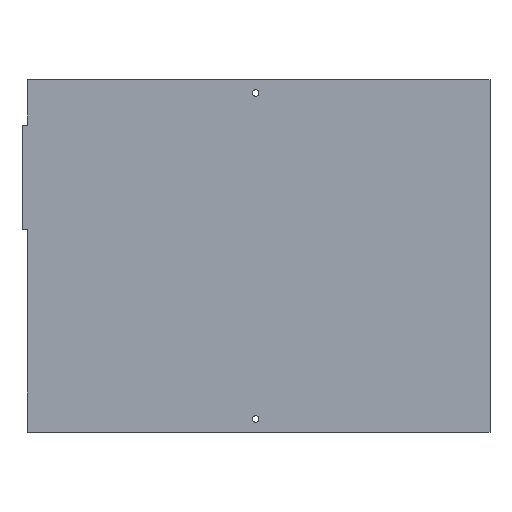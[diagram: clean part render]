
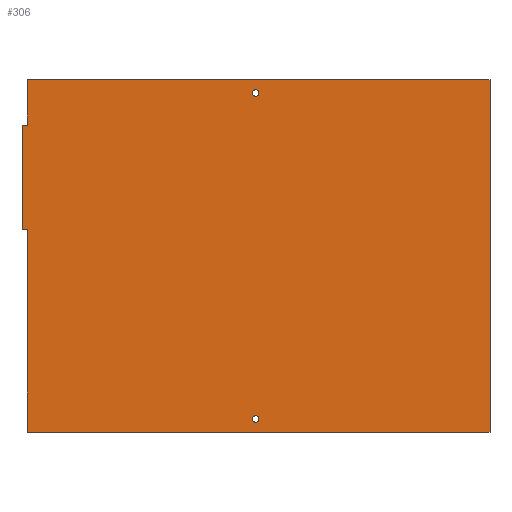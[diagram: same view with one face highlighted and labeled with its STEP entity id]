
A CAD part, top view. The second image highlights one B-rep face of the part: STEP entity #306.
In plain terms, the highlighted planar face has unit normal (0, 0, 1).
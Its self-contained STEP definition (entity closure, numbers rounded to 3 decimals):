
#6 = VECTOR ( 'NONE', #27, 1000. ) ;
#17 = DIRECTION ( 'NONE',  ( 0., 0., -1. ) ) ;
#20 = VERTEX_POINT ( 'NONE', #85 ) ;
#22 = VERTEX_POINT ( 'NONE', #252 ) ;
#27 = DIRECTION ( 'NONE',  ( -1., 0., 0. ) ) ;
#31 = DIRECTION ( 'NONE',  ( 1., 0., 0. ) ) ;
#34 = CARTESIAN_POINT ( 'NONE',  ( 1282.2, 935., 12. ) ) ;
#40 = VECTOR ( 'NONE', #313, 1000. ) ;
#52 = CARTESIAN_POINT ( 'NONE',  ( 1194.7, 1004.8, 12. ) ) ;
#55 = CARTESIAN_POINT ( 'NONE',  ( 1196.96, 1043.2, 12. ) ) ;
#60 = DIRECTION ( 'NONE',  ( 1., 0., 0. ) ) ;
#61 = CARTESIAN_POINT ( 'NONE',  ( 1367.26, 929.86, 12. ) ) ;
#64 = DIRECTION ( 'NONE',  ( 0., 0., 1. ) ) ;
#65 = DIRECTION ( 'NONE',  ( 0., 0., -1. ) ) ;
#66 = CARTESIAN_POINT ( 'NONE',  ( 1281., 935., 12. ) ) ;
#73 = AXIS2_PLACEMENT_3D ( 'NONE', #138, #384, #355 ) ;
#77 = ORIENTED_EDGE ( 'NONE', *, *, #294, .T. ) ;
#82 = CIRCLE ( 'NONE', #282, 1.2 ) ;
#85 = CARTESIAN_POINT ( 'NONE',  ( 1196.96, 1004.8, 12. ) ) ;
#88 = CARTESIAN_POINT ( 'NONE',  ( 1281., 935., 12. ) ) ;
#90 = EDGE_CURVE ( 'NONE', #20, #166, #228, .T. ) ;
#93 = VECTOR ( 'NONE', #141, 1000. ) ;
#101 = VECTOR ( 'NONE', #343, 1000. ) ;
#104 = ORIENTED_EDGE ( 'NONE', *, *, #350, .T. ) ;
#116 = ORIENTED_EDGE ( 'NONE', *, *, #208, .T. ) ;
#121 = DIRECTION ( 'NONE',  ( 0., -1., 0. ) ) ;
#130 = EDGE_CURVE ( 'NONE', #456, #424, #370, .T. ) ;
#132 = CARTESIAN_POINT ( 'NONE',  ( 1196.96, 930.16, 12. ) ) ;
#134 = LINE ( 'NONE', #427, #513 ) ;
#138 = CARTESIAN_POINT ( 'NONE',  ( 1281., 1055., 12. ) ) ;
#141 = DIRECTION ( 'NONE',  ( 1., 0., 0. ) ) ;
#148 = EDGE_LOOP ( 'NONE', ( #334, #218 ) ) ;
#151 = EDGE_CURVE ( 'NONE', #197, #260, #430, .T. ) ;
#154 = VERTEX_POINT ( 'NONE', #55 ) ;
#155 = ORIENTED_EDGE ( 'NONE', *, *, #511, .T. ) ;
#160 = EDGE_LOOP ( 'NONE', ( #104, #116, #407, #77, #342, #290, #398, #155 ) ) ;
#161 = CARTESIAN_POINT ( 'NONE',  ( 1279.8, 935., 12. ) ) ;
#164 = AXIS2_PLACEMENT_3D ( 'NONE', #457, #64, #31 ) ;
#166 = VERTEX_POINT ( 'NONE', #132 ) ;
#170 = LINE ( 'NONE', #308, #6 ) ;
#180 = CARTESIAN_POINT ( 'NONE',  ( 1279.8, 1055., 12. ) ) ;
#183 = CARTESIAN_POINT ( 'NONE',  ( 1196.96, 1059.84, 12. ) ) ;
#197 = VERTEX_POINT ( 'NONE', #348 ) ;
#201 = VERTEX_POINT ( 'NONE', #217 ) ;
#208 = EDGE_CURVE ( 'NONE', #22, #383, #406, .T. ) ;
#217 = CARTESIAN_POINT ( 'NONE',  ( 1282.2, 1055., 12. ) ) ;
#218 = ORIENTED_EDGE ( 'NONE', *, *, #130, .T. ) ;
#221 = PLANE ( 'NONE',  #164 ) ;
#228 = LINE ( 'NONE', #245, #514 ) ;
#229 = DIRECTION ( 'NONE',  ( 1., 0., 0. ) ) ;
#237 = DIRECTION ( 'NONE',  ( 0., 0., -1. ) ) ;
#245 = CARTESIAN_POINT ( 'NONE',  ( 1196.96, 1004.5, 12. ) ) ;
#252 = CARTESIAN_POINT ( 'NONE',  ( 1367.26, 1059.84, 12. ) ) ;
#256 = CARTESIAN_POINT ( 'NONE',  ( 1195., 1004.8, 12. ) ) ;
#259 = FACE_BOUND ( 'NONE', #279, .T. ) ;
#260 = VERTEX_POINT ( 'NONE', #256 ) ;
#263 = AXIS2_PLACEMENT_3D ( 'NONE', #360, #237, #477 ) ;
#269 = EDGE_CURVE ( 'NONE', #260, #20, #429, .T. ) ;
#277 = ORIENTED_EDGE ( 'NONE', *, *, #298, .T. ) ;
#279 = EDGE_LOOP ( 'NONE', ( #277, #483 ) ) ;
#282 = AXIS2_PLACEMENT_3D ( 'NONE', #66, #65, #462 ) ;
#290 = ORIENTED_EDGE ( 'NONE', *, *, #269, .T. ) ;
#294 = EDGE_CURVE ( 'NONE', #154, #197, #170, .T. ) ;
#298 = EDGE_CURVE ( 'NONE', #201, #320, #389, .T. ) ;
#306 = ADVANCED_FACE ( 'NONE', ( #356, #259, #325 ), #221, .T. ) ;
#308 = CARTESIAN_POINT ( 'NONE',  ( 1196.66, 1043.2, 12. ) ) ;
#309 = VECTOR ( 'NONE', #461, 1000. ) ;
#312 = VERTEX_POINT ( 'NONE', #504 ) ;
#313 = DIRECTION ( 'NONE',  ( 0., 1., 0. ) ) ;
#318 = CIRCLE ( 'NONE', #263, 1.2 ) ;
#320 = VERTEX_POINT ( 'NONE', #180 ) ;
#325 = FACE_OUTER_BOUND ( 'NONE', #160, .T. ) ;
#330 = EDGE_CURVE ( 'NONE', #383, #154, #413, .T. ) ;
#334 = ORIENTED_EDGE ( 'NONE', *, *, #361, .T. ) ;
#342 = ORIENTED_EDGE ( 'NONE', *, *, #151, .T. ) ;
#343 = DIRECTION ( 'NONE',  ( -1., 0., 0. ) ) ;
#348 = CARTESIAN_POINT ( 'NONE',  ( 1195., 1043.2, 12. ) ) ;
#350 = EDGE_CURVE ( 'NONE', #312, #22, #394, .T. ) ;
#355 = DIRECTION ( 'NONE',  ( 1., 0., 0. ) ) ;
#356 = FACE_BOUND ( 'NONE', #148, .T. ) ;
#360 = CARTESIAN_POINT ( 'NONE',  ( 1281., 1055., 12. ) ) ;
#361 = EDGE_CURVE ( 'NONE', #424, #456, #82, .T. ) ;
#370 = CIRCLE ( 'NONE', #408, 1.2 ) ;
#383 = VERTEX_POINT ( 'NONE', #183 ) ;
#384 = DIRECTION ( 'NONE',  ( 0., 0., -1. ) ) ;
#389 = CIRCLE ( 'NONE', #73, 1.2 ) ;
#394 = LINE ( 'NONE', #61, #40 ) ;
#398 = ORIENTED_EDGE ( 'NONE', *, *, #90, .T. ) ;
#406 = LINE ( 'NONE', #455, #101 ) ;
#407 = ORIENTED_EDGE ( 'NONE', *, *, #330, .T. ) ;
#408 = AXIS2_PLACEMENT_3D ( 'NONE', #88, #17, #60 ) ;
#413 = LINE ( 'NONE', #465, #309 ) ;
#424 = VERTEX_POINT ( 'NONE', #34 ) ;
#427 = CARTESIAN_POINT ( 'NONE',  ( 1196.66, 930.16, 12. ) ) ;
#429 = LINE ( 'NONE', #52, #93 ) ;
#430 = LINE ( 'NONE', #442, #460 ) ;
#442 = CARTESIAN_POINT ( 'NONE',  ( 1195., 1043.5, 12. ) ) ;
#451 = DIRECTION ( 'NONE',  ( 0., -1., 0. ) ) ;
#455 = CARTESIAN_POINT ( 'NONE',  ( 1367.56, 1059.84, 12. ) ) ;
#456 = VERTEX_POINT ( 'NONE', #161 ) ;
#457 = CARTESIAN_POINT ( 'NONE',  ( 1196.66, 929.86, 12. ) ) ;
#460 = VECTOR ( 'NONE', #451, 1000. ) ;
#461 = DIRECTION ( 'NONE',  ( 0., -1., 0. ) ) ;
#462 = DIRECTION ( 'NONE',  ( 1., 0., 0. ) ) ;
#465 = CARTESIAN_POINT ( 'NONE',  ( 1196.96, 1060.14, 12. ) ) ;
#477 = DIRECTION ( 'NONE',  ( 1., 0., 0. ) ) ;
#483 = ORIENTED_EDGE ( 'NONE', *, *, #495, .T. ) ;
#495 = EDGE_CURVE ( 'NONE', #320, #201, #318, .T. ) ;
#504 = CARTESIAN_POINT ( 'NONE',  ( 1367.26, 930.16, 12. ) ) ;
#511 = EDGE_CURVE ( 'NONE', #166, #312, #134, .T. ) ;
#513 = VECTOR ( 'NONE', #229, 1000. ) ;
#514 = VECTOR ( 'NONE', #121, 1000. ) ;
